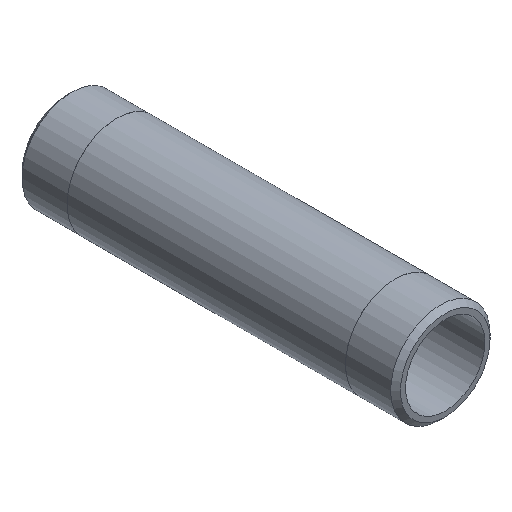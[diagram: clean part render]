
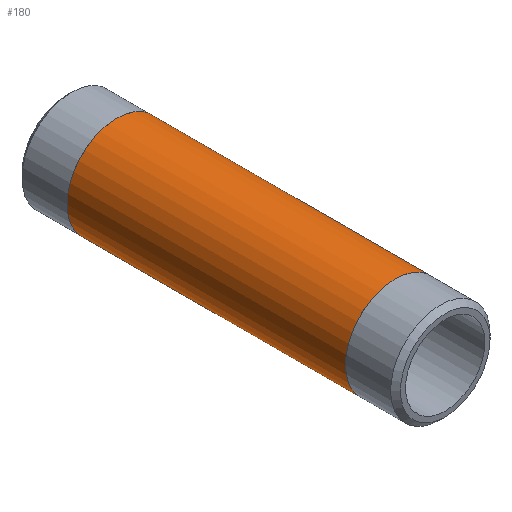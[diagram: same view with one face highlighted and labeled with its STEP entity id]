
A CAD part, isometric view. The second image highlights one B-rep face of the part: STEP entity #180.
In plain terms, the highlighted cylindrical face has radius 16.701 mm (diameter 33.401 mm), a full revolution.
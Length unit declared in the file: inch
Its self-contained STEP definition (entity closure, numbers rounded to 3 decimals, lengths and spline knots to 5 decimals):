
#25=CYLINDRICAL_SURFACE('',#220,0.6575);
#34=FACE_OUTER_BOUND('',#47,.T.);
#47=EDGE_LOOP('',(#155,#156,#157,#158,#159,#160));
#55=LINE('',#338,#61);
#61=VECTOR('',#283,0.6575);
#77=CIRCLE('',#218,0.6575);
#78=CIRCLE('',#219,0.6575);
#79=CIRCLE('',#221,0.6575);
#80=CIRCLE('',#222,0.6575);
#95=VERTEX_POINT('',#329);
#96=VERTEX_POINT('',#330);
#97=VERTEX_POINT('',#334);
#98=VERTEX_POINT('',#335);
#117=EDGE_CURVE('',#95,#96,#77,.T.);
#118=EDGE_CURVE('',#96,#95,#78,.T.);
#119=EDGE_CURVE('',#97,#98,#79,.T.);
#120=EDGE_CURVE('',#98,#97,#80,.T.);
#121=EDGE_CURVE('',#98,#96,#55,.T.);
#155=ORIENTED_EDGE('',*,*,#119,.F.);
#156=ORIENTED_EDGE('',*,*,#120,.F.);
#157=ORIENTED_EDGE('',*,*,#121,.T.);
#158=ORIENTED_EDGE('',*,*,#118,.T.);
#159=ORIENTED_EDGE('',*,*,#117,.T.);
#160=ORIENTED_EDGE('',*,*,#121,.F.);
#180=ADVANCED_FACE('',(#34),#25,.T.);
#218=AXIS2_PLACEMENT_3D('',#331,#273,#274);
#219=AXIS2_PLACEMENT_3D('',#332,#275,#276);
#220=AXIS2_PLACEMENT_3D('',#333,#277,#278);
#221=AXIS2_PLACEMENT_3D('',#336,#279,#280);
#222=AXIS2_PLACEMENT_3D('',#337,#281,#282);
#273=DIRECTION('center_axis',(0.,-1.,0.));
#274=DIRECTION('ref_axis',(1.,0.,0.));
#275=DIRECTION('center_axis',(0.,-1.,0.));
#276=DIRECTION('ref_axis',(1.,0.,0.));
#277=DIRECTION('center_axis',(0.,-1.,0.));
#278=DIRECTION('ref_axis',(0.,0.,-1.));
#279=DIRECTION('center_axis',(0.,-1.,0.));
#280=DIRECTION('ref_axis',(1.,0.,0.));
#281=DIRECTION('center_axis',(0.,-1.,0.));
#282=DIRECTION('ref_axis',(1.,0.,0.));
#283=DIRECTION('',(0.,1.,0.));
#329=CARTESIAN_POINT('',(0.,4.339,-0.6575));
#330=CARTESIAN_POINT('',(0.,4.339,0.6575));
#331=CARTESIAN_POINT('Origin',(0.,4.339,0.));
#332=CARTESIAN_POINT('Origin',(0.,4.339,0.));
#333=CARTESIAN_POINT('Origin',(0.,2.5,0.));
#334=CARTESIAN_POINT('',(0.,0.661,-0.6575));
#335=CARTESIAN_POINT('',(0.,0.661,0.6575));
#336=CARTESIAN_POINT('Origin',(0.,0.661,0.));
#337=CARTESIAN_POINT('Origin',(0.,0.661,0.));
#338=CARTESIAN_POINT('',(0.,2.5,0.6575));
